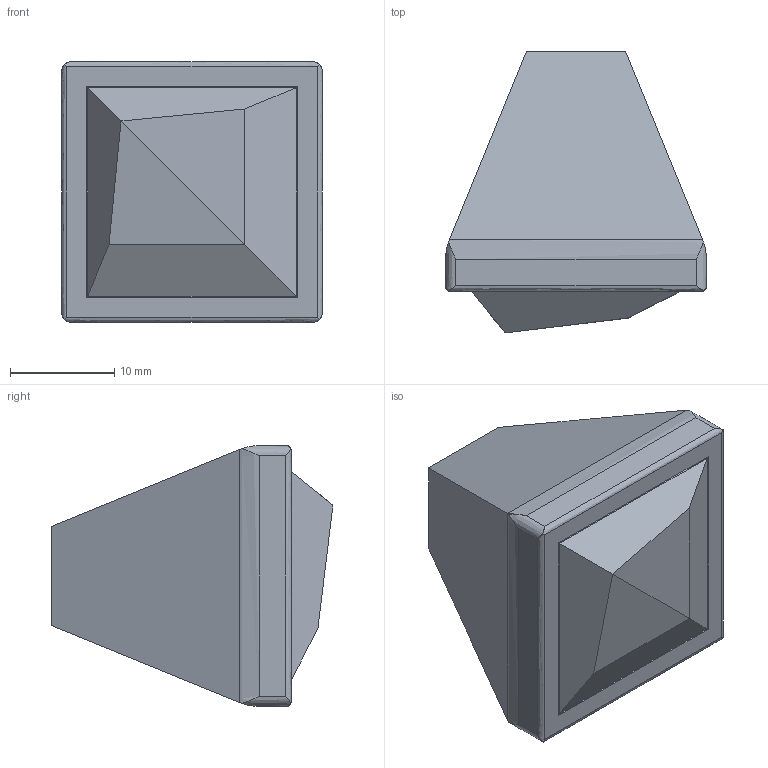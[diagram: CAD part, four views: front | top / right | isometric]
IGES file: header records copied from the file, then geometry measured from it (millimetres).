
Start section: Data from Parasolid IGES Translator 15.0.47, Copyright(c) 2006 Siemens P LM Software. All Rights Reserved.
Global section: file name: 9113695.igs; native system:  By UGS Corp.; preprocessor: XPlus GENERIC/IGES 3.0; author: Noname; organization: Noname; date: 20140122.162952; units: millimetre
Bounding box: 25 x 27 x 25 mm (x, y, z)
Surface area: 2744.8 mm2 (no closed solid volume)
Topology: 0 solids, 0 shells, 39 faces, 184 edges, 184 vertices
Faces by surface type: extrusion 26, revolution 13
